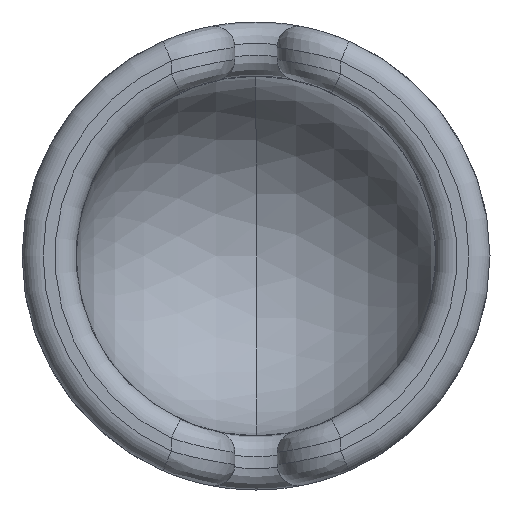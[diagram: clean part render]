
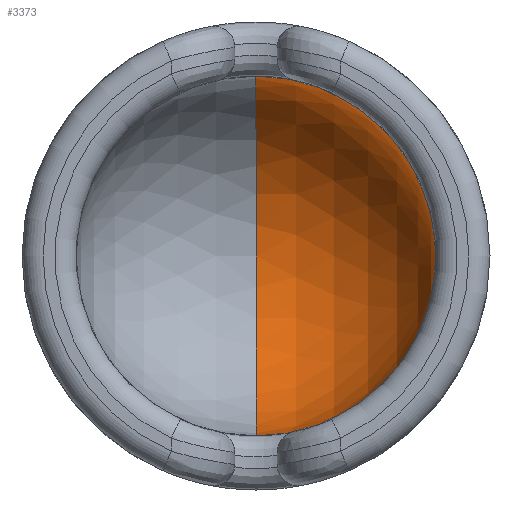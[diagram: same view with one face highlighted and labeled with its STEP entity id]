
A CAD part, front view. The second image highlights one B-rep face of the part: STEP entity #3373.
In plain terms, the highlighted spherical face has radius 6.747 mm.
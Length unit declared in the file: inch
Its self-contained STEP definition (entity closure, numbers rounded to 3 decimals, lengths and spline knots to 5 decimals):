
#65 = FACE_OUTER_BOUND ( 'NONE', #219, .T. ) ;
#113 = DIRECTION ( 'NONE',  ( 0., 0., 1. ) ) ;
#169 = DIRECTION ( 'NONE',  ( 0., 0., 1. ) ) ;
#219 = EDGE_LOOP ( 'NONE', ( #2981, #1974, #2675 ) ) ;
#241 = EDGE_CURVE ( 'NONE', #1929, #2464, #2381, .T. ) ;
#364 = DIRECTION ( 'NONE',  ( 1., 0., 0. ) ) ;
#390 = DIRECTION ( 'NONE',  ( 0., 1., 0. ) ) ;
#458 = AXIS2_PLACEMENT_3D ( 'NONE', #1883, #3195, #2636 ) ;
#641 = DIRECTION ( 'NONE',  ( 0., 0., -1. ) ) ;
#670 = CARTESIAN_POINT ( 'NONE',  ( 0., 1.625, 0. ) ) ;
#731 = SPHERICAL_SURFACE ( 'NONE', #458, 0.26563 ) ;
#922 = AXIS2_PLACEMENT_3D ( 'NONE', #1714, #390, #113 ) ;
#1182 = CARTESIAN_POINT ( 'NONE',  ( 0., 1.625, 0. ) ) ;
#1340 = AXIS2_PLACEMENT_3D ( 'NONE', #1182, #364, #641 ) ;
#1353 = EDGE_CURVE ( 'NONE', #2464, #2009, #3020, .T. ) ;
#1714 = CARTESIAN_POINT ( 'NONE',  ( 0., 1.625, 0. ) ) ;
#1792 = EDGE_CURVE ( 'NONE', #1929, #2009, #2127, .T. ) ;
#1805 = CARTESIAN_POINT ( 'NONE',  ( 0., 1.625, -0.26563 ) ) ;
#1863 = AXIS2_PLACEMENT_3D ( 'NONE', #670, #1987, #169 ) ;
#1883 = CARTESIAN_POINT ( 'NONE',  ( 0., 1.625, 0. ) ) ;
#1929 = VERTEX_POINT ( 'NONE', #2647 ) ;
#1974 = ORIENTED_EDGE ( 'NONE', *, *, #1792, .T. ) ;
#1987 = DIRECTION ( 'NONE',  ( -1., 0., 0. ) ) ;
#1995 = CARTESIAN_POINT ( 'NONE',  ( 0., 1.89063, 0. ) ) ;
#2009 = VERTEX_POINT ( 'NONE', #1995 ) ;
#2127 = CIRCLE ( 'NONE', #1863, 0.26563 ) ;
#2381 = CIRCLE ( 'NONE', #922, 0.26563 ) ;
#2464 = VERTEX_POINT ( 'NONE', #1805 ) ;
#2636 = DIRECTION ( 'NONE',  ( 0., 0., -1. ) ) ;
#2647 = CARTESIAN_POINT ( 'NONE',  ( 0., 1.625, 0.26563 ) ) ;
#2675 = ORIENTED_EDGE ( 'NONE', *, *, #1353, .F. ) ;
#2981 = ORIENTED_EDGE ( 'NONE', *, *, #241, .F. ) ;
#3020 = CIRCLE ( 'NONE', #1340, 0.26563 ) ;
#3195 = DIRECTION ( 'NONE',  ( -1., 0., 0. ) ) ;
#3373 = ADVANCED_FACE ( 'NONE', ( #65 ), #731, .F. ) ;
